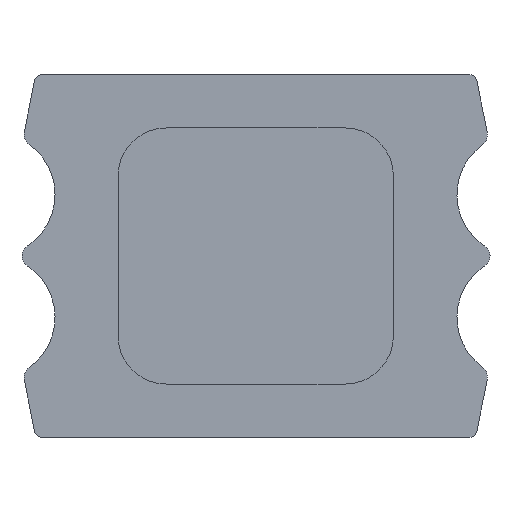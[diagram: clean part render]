
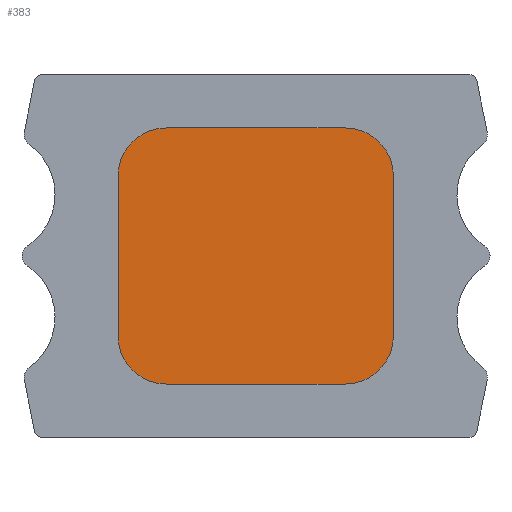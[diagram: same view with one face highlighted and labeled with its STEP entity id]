
A CAD part, left-side view. The second image highlights one B-rep face of the part: STEP entity #383.
In plain terms, the highlighted planar face has unit normal (-1, 0, 0).
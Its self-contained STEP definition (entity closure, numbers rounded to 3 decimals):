
#311 = FACE_OUTER_BOUND ( 'NONE', #1628, .T. ) ;
#383 = ADVANCED_FACE ( 'NONE', ( #311 ), #536, .T. ) ;
#417 = CIRCLE ( 'NONE', #1609, 2. ) ;
#421 = LINE ( 'NONE', #1190, #505 ) ;
#422 = VECTOR ( 'NONE', #1194, 1000. ) ;
#423 = CIRCLE ( 'NONE', #1612, 2. ) ;
#424 = VECTOR ( 'NONE', #1199, 1000. ) ;
#425 = CIRCLE ( 'NONE', #1613, 2. ) ;
#426 = LINE ( 'NONE', #1200, #424 ) ;
#427 = LINE ( 'NONE', #1195, #422 ) ;
#431 = VECTOR ( 'NONE', #1204, 1000. ) ;
#432 = LINE ( 'NONE', #1206, #431 ) ;
#437 = CIRCLE ( 'NONE', #1594, 2. ) ;
#505 = VECTOR ( 'NONE', #1187, 1000. ) ;
#533 = DIRECTION ( 'NONE',  ( 0., 0., 1. ) ) ;
#534 = DIRECTION ( 'NONE',  ( -1., 0., 0. ) ) ;
#535 = CARTESIAN_POINT ( 'NONE',  ( -79.9, 136.796, -127.562 ) ) ;
#536 = PLANE ( 'NONE',  #1810 ) ;
#574 = VERTEX_POINT ( 'NONE', #645 ) ;
#589 = VERTEX_POINT ( 'NONE', #894 ) ;
#601 = VERTEX_POINT ( 'NONE', #907 ) ;
#604 = VERTEX_POINT ( 'NONE', #910 ) ;
#606 = VERTEX_POINT ( 'NONE', #912 ) ;
#611 = VERTEX_POINT ( 'NONE', #917 ) ;
#616 = VERTEX_POINT ( 'NONE', #923 ) ;
#622 = VERTEX_POINT ( 'NONE', #929 ) ;
#645 = CARTESIAN_POINT ( 'NONE',  ( -79.9, 146.196, -127.562 ) ) ;
#894 = CARTESIAN_POINT ( 'NONE',  ( -79.9, 138.796, -127.562 ) ) ;
#907 = CARTESIAN_POINT ( 'NONE',  ( -79.9, 146.196, -138.162 ) ) ;
#910 = CARTESIAN_POINT ( 'NONE',  ( -79.9, 148.196, -136.162 ) ) ;
#912 = CARTESIAN_POINT ( 'NONE',  ( -79.9, 138.796, -138.162 ) ) ;
#917 = CARTESIAN_POINT ( 'NONE',  ( -79.9, 136.796, -129.562 ) ) ;
#923 = CARTESIAN_POINT ( 'NONE',  ( -79.9, 136.796, -136.162 ) ) ;
#929 = CARTESIAN_POINT ( 'NONE',  ( -79.9, 148.196, -129.562 ) ) ;
#1187 = DIRECTION ( 'NONE',  ( 0., 1., 0. ) ) ;
#1190 = CARTESIAN_POINT ( 'NONE',  ( -79.9, 146.196, -138.162 ) ) ;
#1191 = DIRECTION ( 'NONE',  ( 0., 0., 1. ) ) ;
#1192 = DIRECTION ( 'NONE',  ( 1., 0., 0. ) ) ;
#1193 = CARTESIAN_POINT ( 'NONE',  ( -79.9, 146.196, -136.162 ) ) ;
#1194 = DIRECTION ( 'NONE',  ( 0., 0., 1. ) ) ;
#1195 = CARTESIAN_POINT ( 'NONE',  ( -79.9, 148.196, -129.562 ) ) ;
#1196 = DIRECTION ( 'NONE',  ( 0., 0., 1. ) ) ;
#1197 = DIRECTION ( 'NONE',  ( 1., 0., 0. ) ) ;
#1198 = CARTESIAN_POINT ( 'NONE',  ( -79.9, 146.196, -129.562 ) ) ;
#1199 = DIRECTION ( 'NONE',  ( 0., -1., 0. ) ) ;
#1200 = CARTESIAN_POINT ( 'NONE',  ( -79.9, 138.796, -127.562 ) ) ;
#1201 = DIRECTION ( 'NONE',  ( 0., 0., 1. ) ) ;
#1202 = DIRECTION ( 'NONE',  ( 1., 0., 0. ) ) ;
#1203 = CARTESIAN_POINT ( 'NONE',  ( -79.9, 138.796, -129.562 ) ) ;
#1204 = DIRECTION ( 'NONE',  ( 0., 0., -1. ) ) ;
#1206 = CARTESIAN_POINT ( 'NONE',  ( -79.9, 136.796, -129.562 ) ) ;
#1211 = DIRECTION ( 'NONE',  ( 0., 0., 1. ) ) ;
#1212 = DIRECTION ( 'NONE',  ( 1., 0., 0. ) ) ;
#1213 = CARTESIAN_POINT ( 'NONE',  ( -79.9, 138.796, -136.162 ) ) ;
#1594 = AXIS2_PLACEMENT_3D ( 'NONE', #1213, #1212, #1211 ) ;
#1609 = AXIS2_PLACEMENT_3D ( 'NONE', #1193, #1192, #1191 ) ;
#1612 = AXIS2_PLACEMENT_3D ( 'NONE', #1198, #1197, #1196 ) ;
#1613 = AXIS2_PLACEMENT_3D ( 'NONE', #1203, #1202, #1201 ) ;
#1628 = EDGE_LOOP ( 'NONE', ( #1652, #1651, #1653, #1647, #1650, #1649, #1637, #1640 ) ) ;
#1637 = ORIENTED_EDGE ( 'NONE', *, *, #1854, .F. ) ;
#1640 = ORIENTED_EDGE ( 'NONE', *, *, #1855, .F. ) ;
#1647 = ORIENTED_EDGE ( 'NONE', *, *, #1851, .F. ) ;
#1649 = ORIENTED_EDGE ( 'NONE', *, *, #1853, .F. ) ;
#1650 = ORIENTED_EDGE ( 'NONE', *, *, #1852, .F. ) ;
#1651 = ORIENTED_EDGE ( 'NONE', *, *, #1849, .F. ) ;
#1652 = ORIENTED_EDGE ( 'NONE', *, *, #1846, .F. ) ;
#1653 = ORIENTED_EDGE ( 'NONE', *, *, #1850, .F. ) ;
#1810 = AXIS2_PLACEMENT_3D ( 'NONE', #535, #534, #533 ) ;
#1846 = EDGE_CURVE ( 'NONE', #616, #606, #437, .T. ) ;
#1849 = EDGE_CURVE ( 'NONE', #611, #616, #432, .T. ) ;
#1850 = EDGE_CURVE ( 'NONE', #589, #611, #425, .T. ) ;
#1851 = EDGE_CURVE ( 'NONE', #574, #589, #426, .T. ) ;
#1852 = EDGE_CURVE ( 'NONE', #622, #574, #423, .T. ) ;
#1853 = EDGE_CURVE ( 'NONE', #604, #622, #427, .T. ) ;
#1854 = EDGE_CURVE ( 'NONE', #601, #604, #417, .T. ) ;
#1855 = EDGE_CURVE ( 'NONE', #606, #601, #421, .T. ) ;
